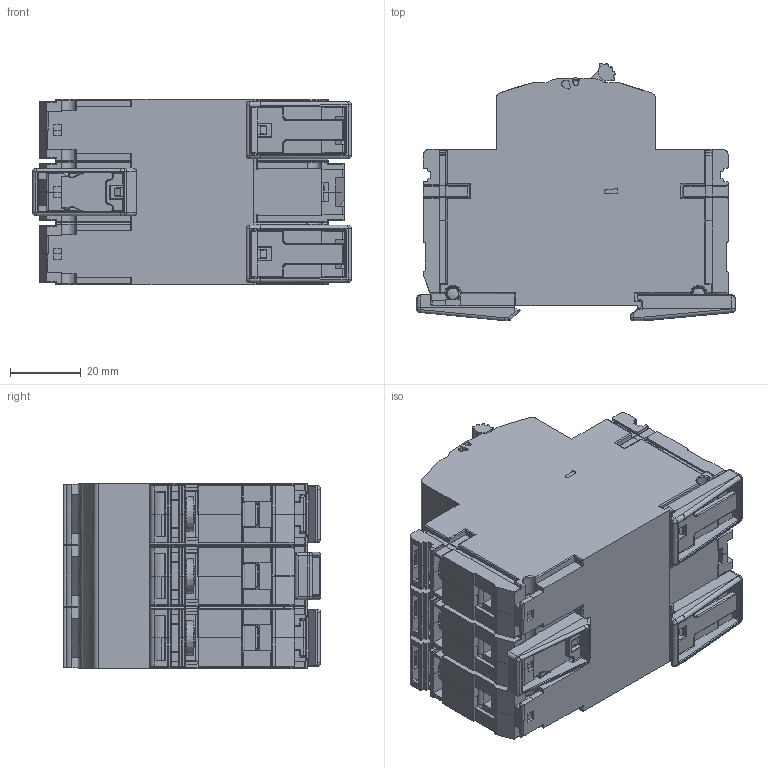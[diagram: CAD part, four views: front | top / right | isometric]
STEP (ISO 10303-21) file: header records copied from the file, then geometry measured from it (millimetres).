
FILE_DESCRIPTION (( 'STEP AP214' ), '1' );
FILE_NAME ('LPN-3_zj2.step', '2013-06-24T09:40:01', ( 'Siemens' ), ( 'Siemens' ), 'SwSTEP 2.0', 'SolidWorks 2011', '' );
FILE_SCHEMA (( 'AUTOMOTIVE_DESIGN' ));
Length unit declared in the file: millimetre
Products named in the file (1): LPN-3_zj2
Bounding box: 90.21 x 72.92 x 52.6 mm (x, y, z)
Volume: 227544.6 mm3; surface area: 48422.2 mm2
Topology: 1 solids, 10 shells, 4750 faces, 13471 edges, 8563 vertices
Faces by surface type: plane 2606, cylinder 1462, torus 288, bspline 207, cone 98, sphere 89
Entity records: 231528 total; most frequent: CARTESIAN_POINT 65181, ORIENTED_EDGE 26670, DIRECTION 19374, EDGE_CURVE 13335, VERTEX_POINT 8557, LINE 8282, VECTOR 8282, AXIS2_PLACEMENT_3D 5546
